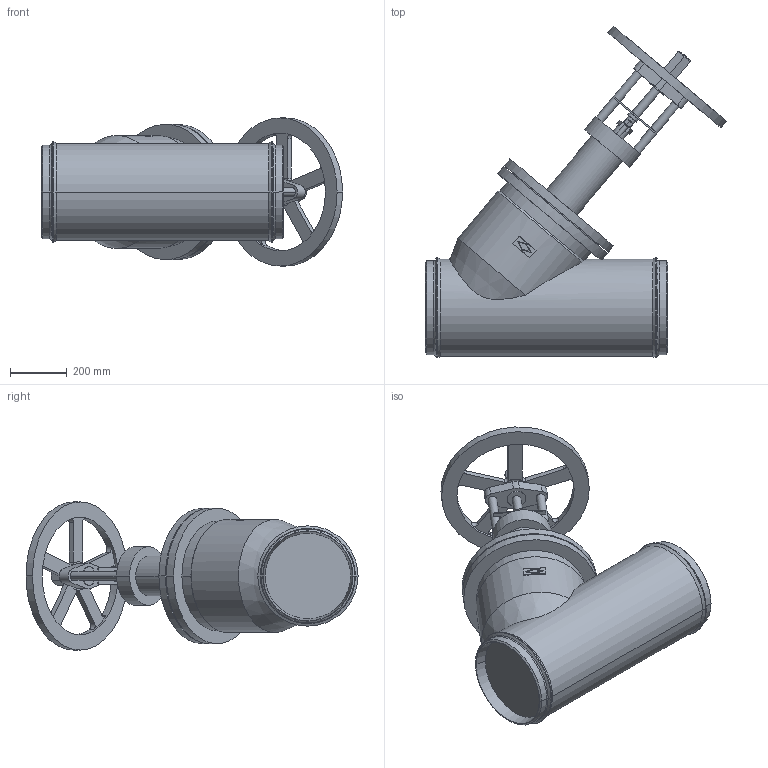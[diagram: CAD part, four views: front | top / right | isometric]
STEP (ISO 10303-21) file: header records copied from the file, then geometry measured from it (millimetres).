
FILE_DESCRIPTION(('Creo Elements/Direct Modeling STEP Export'),'2;1');
FILE_NAME('c000005030.stp','2012-09-20T12:08:58',(''),(''),'Creo Elements/Direct Modeling STEP processor for AP203 (Solid Model)','Creo Elements/Direct Modeling 17.0D 15-Jul-2011 (C) Parametric Technology GmbH','');
FILE_SCHEMA(('CONFIG_CONTROL_DESIGN'));
Length unit declared in the file: millimetre
Products named in the file (1): 1
Bounding box: 1057.08 x 1165.32 x 520 mm (x, y, z)
Volume: 121561504.4 mm3; surface area: 2491075.1 mm2
Topology: 1 solids, 1 shells, 223 faces, 572 edges, 372 vertices
Faces by surface type: plane 112, cylinder 87, cone 20, torus 4
Entity records: 6746 total; most frequent: CARTESIAN_POINT 1323, ORIENTED_EDGE 1144, DIRECTION 1080, EDGE_CURVE 572, AXIS2_PLACEMENT_3D 377, VERTEX_POINT 372, VECTOR 326, LINE 326
